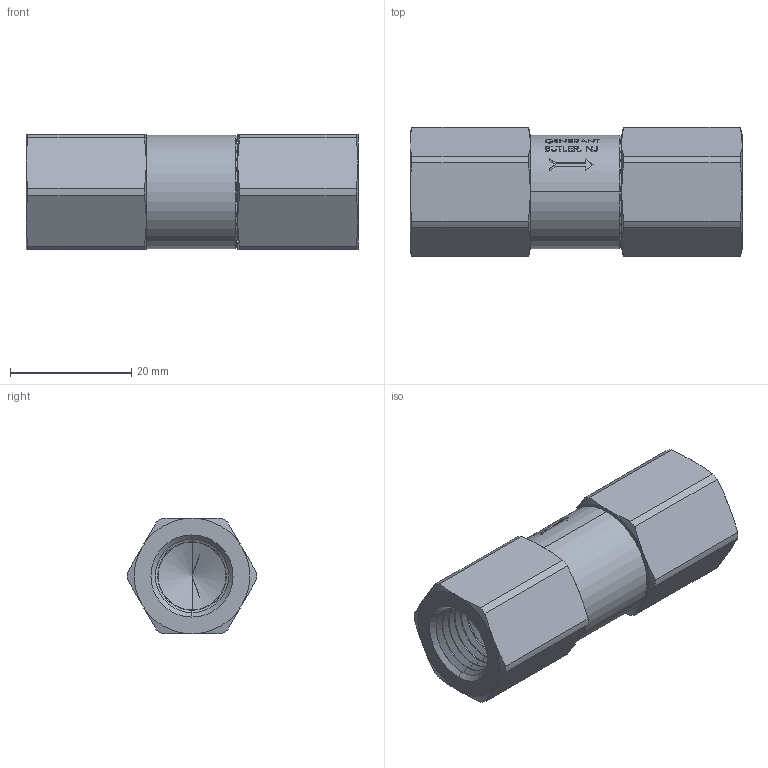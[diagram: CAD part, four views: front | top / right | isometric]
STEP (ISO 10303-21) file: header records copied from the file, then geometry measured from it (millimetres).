
FILE_DESCRIPTION (( 'STEP AP203' ), '1' );
FILE_NAME ('PCV-4F.STEP', '2013-04-16T18:26:07', ( '' ), ( '' ), 'SwSTEP 2.0', 'SolidWorks 2011', '' );
FILE_SCHEMA (( 'CONFIG_CONTROL_DESIGN' ));
Length unit declared in the file: inch
Products named in the file (2): PCV-4F; Part1^PCV-4F_CM
Assembly tree (1 placements, depth 2):
  PCV-4F
    Part1^PCV-4F_CM
Bounding box: 54.76 x 21.33 x 19.05 mm (x, y, z)
Volume: 13040.2 mm3; surface area: 6266.3 mm2
Topology: 1 solids, 1 shells, 418 faces, 1012 edges, 620 vertices
Faces by surface type: cone 148, plane 147, bspline 70, cylinder 53
Entity records: 15675 total; most frequent: CARTESIAN_POINT 6287, ORIENTED_EDGE 2016, DIRECTION 1742, EDGE_CURVE 1008, AXIS2_PLACEMENT_3D 668, VERTEX_POINT 620, EDGE_LOOP 446, ADVANCED_FACE 418
